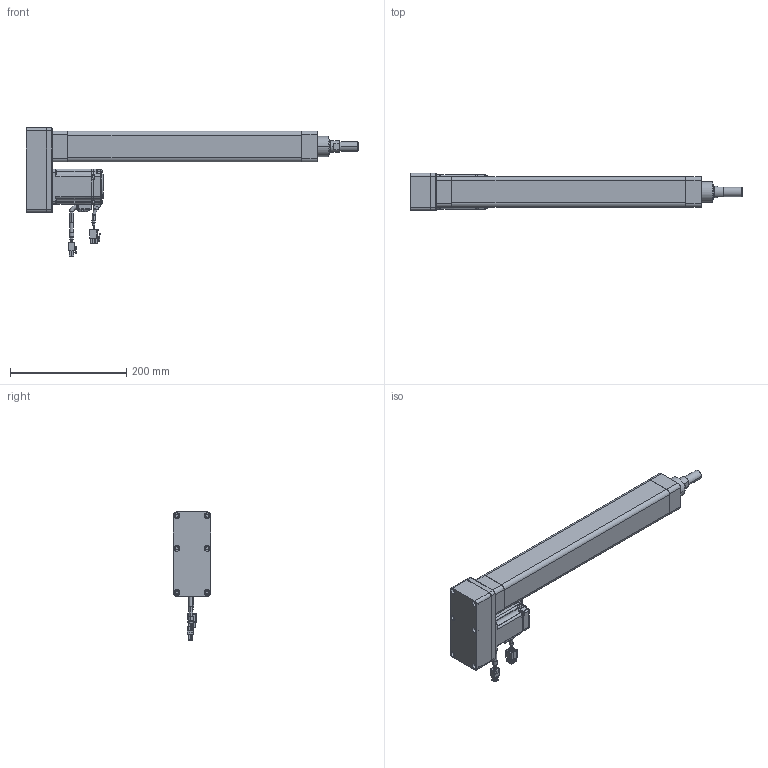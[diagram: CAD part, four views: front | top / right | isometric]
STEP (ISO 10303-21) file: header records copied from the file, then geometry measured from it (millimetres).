
FILE_DESCRIPTION (( 'STEP AP203' ), '1' );
FILE_NAME ('RKD40-P-400W-B3.STEP', '2025-01-23T10:42:59', ( '' ), ( '' ), 'SwSTEP 2.0', 'SolidWorks 2024', '' );
FILE_SCHEMA (( 'CONFIG_CONTROL_DESIGN' ));
Length unit declared in the file: millimetre
Products named in the file (16): 复件 RKD-40-FARCAP-PT^复件 RKD40-A_RKD40-P-400W-B3; RKD40-P-400W-B3; 复件 伺服电机60X60-400W^RKD40-P-400W-B3; 复件 RKD40-A^RKD40-P-400W-B3; 复件 RKD-40-NEARCAP-PT^复件 RKD40-A_RKD40-P-400W-B3; 复件 _Motor Connector_2_2^复件 伺服电机60X60-400W_RKD40-P-400W-B3; 复件 转折板040-020-MXSS^RKD40-P-400W-B3; 复件 转折座040-021^RKD40-P-400W-B3; 复件 RKD-40-BASE-PT^复件 RKD40-A_RKD40-P-400W-B3; 复件 _Cable Motor Bottom 04_2^复件 伺服电机60X60-400W_RKD40-P-400W-B3; 复件 _Cable Motor Top 04_2^复件 伺服电机60X60-400W_RKD40-P-400W-B3; 复件 _MHMF Connector 9 Pin_A6_2^复件 伺服电机60X60-400W_RKD40-P-400W-B3; 复件 _Cable Brake Top 04_2^复件 伺服电机60X60-400W_RKD40-P-400W-B3; 复件 _MHMF042L1U2_1^复件 伺服电机60X60-400W_RKD40-P-400W-B3; 复件 双头拉杆螺栓M6X15^RKD40-P-400W-B3; 复件 _Cable Brake Bottom 04_2^复件 伺服电机60X60-400W_RKD40-P-400W-B3
Assembly tree (18 placements, depth 3):
  RKD40-P-400W-B3
    复件 RKD40-A^RKD40-P-400W-B3
      复件 RKD-40-BASE-PT^复件 RKD40-A_RKD40-P-400W-B3
      复件 RKD-40-FARCAP-PT^复件 RKD40-A_RKD40-P-400W-B3
      复件 RKD-40-NEARCAP-PT^复件 RKD40-A_RKD40-P-400W-B3
    复件 转折板040-020-MXSS^RKD40-P-400W-B3
    复件 转折座040-021^RKD40-P-400W-B3
    复件 双头拉杆螺栓M6X15^RKD40-P-400W-B3  x4
    复件 伺服电机60X60-400W^RKD40-P-400W-B3
      复件 _MHMF042L1U2_1^复件 伺服电机60X60-400W_RKD40-P-400W-B3
      复件 _Cable Motor Bottom 04_2^复件 伺服电机60X60-400W_RKD40-P-400W-B3
      复件 _Cable Motor Top 04_2^复件 伺服电机60X60-400W_RKD40-P-400W-B3
      复件 _Motor Connector_2_2^复件 伺服电机60X60-400W_RKD40-P-400W-B3
      复件 _Cable Brake Bottom 04_2^复件 伺服电机60X60-400W_RKD40-P-400W-B3
      复件 _Cable Brake Top 04_2^复件 伺服电机60X60-400W_RKD40-P-400W-B3
      复件 _MHMF Connector 9 Pin_A6_2^复件 伺服电机60X60-400W_RKD40-P-400W-B3
Bounding box: 571 x 64 x 220.2 mm (x, y, z)
Volume: 1317921 mm3; surface area: 301672.6 mm2
Topology: 21 solids, 21 shells, 1488 faces, 3946 edges, 2618 vertices
Faces by surface type: plane 668, cylinder 578, cone 128, bspline 60, torus 42, sphere 12
Entity records: 45936 total; most frequent: CARTESIAN_POINT 13231, DIRECTION 6468, ORIENTED_EDGE 6390, EDGE_CURVE 3195, AXIS2_PLACEMENT_3D 2297, VERTEX_POINT 2090, LINE 1874, VECTOR 1874
